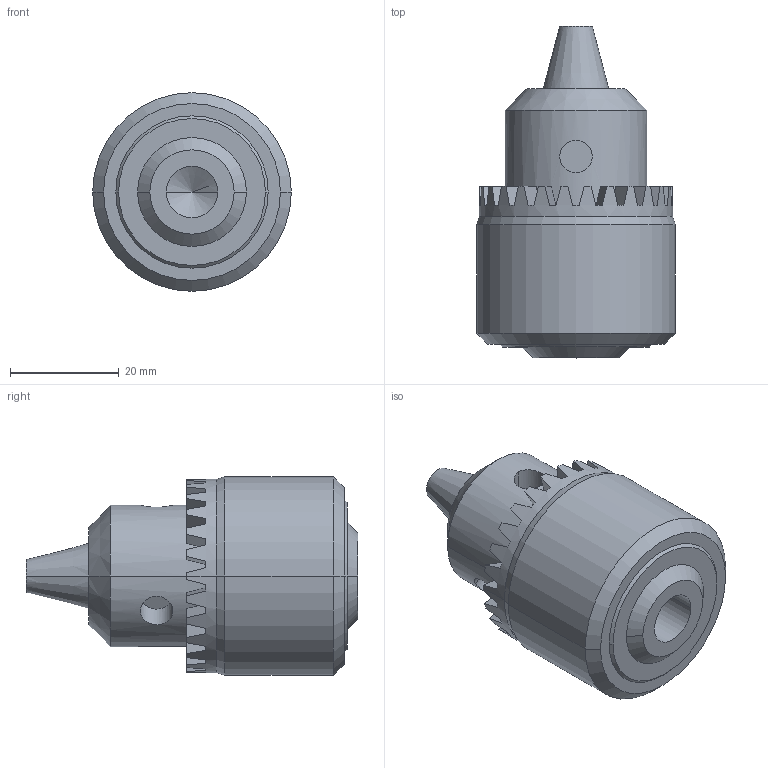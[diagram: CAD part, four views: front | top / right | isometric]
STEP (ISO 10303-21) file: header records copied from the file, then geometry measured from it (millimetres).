
FILE_DESCRIPTION((''),'2;1');
FILE_NAME('2050529543','2011-11-07T',('greextsd'),(''),'PRO/ENGINEER BY PARAMETRIC TECHNOLOGY CORPORATION, 2010330','PRO/ENGINEER BY PARAMETRIC TECHNOLOGY CORPORATION, 2010330','');
FILE_SCHEMA(('AUTOMOTIVE_DESIGN_CC2 { 1 2 10303 214 -1 1 5 2 }'));
Length unit declared in the file: millimetre
Products named in the file (1): 2050529543
Bounding box: 36.5 x 61 x 36.5 mm (x, y, z)
Volume: 37356.9 mm3; surface area: 8406.5 mm2
Topology: 1 solids, 1 shells, 140 faces, 386 edges, 253 vertices
Faces by surface type: plane 112, cylinder 14, cone 14
Entity records: 4749 total; most frequent: CARTESIAN_POINT 1163, ORIENTED_EDGE 768, DIRECTION 696, EDGE_CURVE 384, AXIS2_PLACEMENT_3D 282, VERTEX_POINT 253, EDGE_LOOP 147, CIRCLE 142
